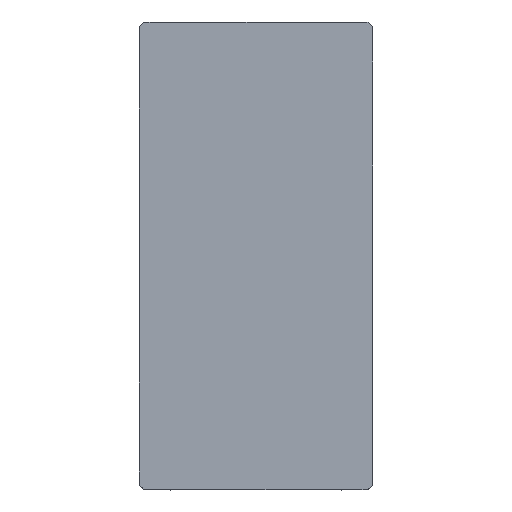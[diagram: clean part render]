
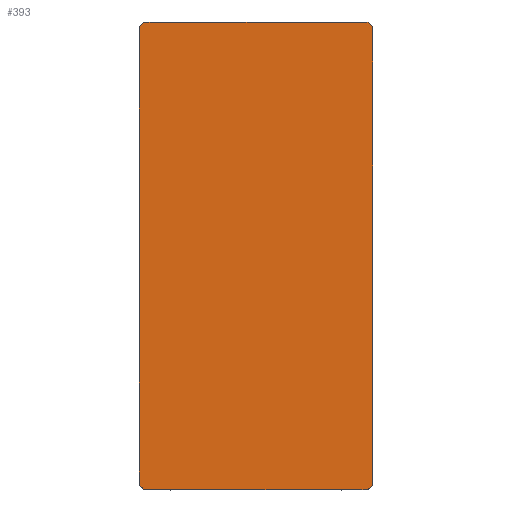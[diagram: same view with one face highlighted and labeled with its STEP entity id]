
A CAD part, top view. The second image highlights one B-rep face of the part: STEP entity #393.
In plain terms, the highlighted planar face has unit normal (0, 0, 1).
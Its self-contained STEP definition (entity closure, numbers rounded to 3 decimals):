
#196=(
BOUNDED_CURVE()
B_SPLINE_CURVE(2,(#4877,#4878,#4879,#4880,#4881,#4882,#4883,#4884,#4885),
.UNSPECIFIED.,.F.,.F.)
B_SPLINE_CURVE_WITH_KNOTS((3,2,2,2,3),(16191.372,17931.372,
17978.496,18818.496,18865.619),.UNSPECIFIED.)
CURVE()
GEOMETRIC_REPRESENTATION_ITEM()
RATIONAL_B_SPLINE_CURVE((1.,1.,1.,0.707,1.,1.,1.,0.707,
1.))
REPRESENTATION_ITEM($)
);
#198=(
BOUNDED_CURVE()
B_SPLINE_CURVE(2,(#4897,#4898,#4899,#4900,#4901,#4902,#4903,#4904,#4905),
.UNSPECIFIED.,.F.,.F.)
B_SPLINE_CURVE_WITH_KNOTS((3,2,2,2,3),(18865.619,20605.619,
20652.743,21492.743,21539.867),.UNSPECIFIED.)
CURVE()
GEOMETRIC_REPRESENTATION_ITEM()
RATIONAL_B_SPLINE_CURVE((1.,1.,1.,0.707,1.,1.,1.,0.707,
1.))
REPRESENTATION_ITEM($)
);
#393=ADVANCED_FACE($,(#617),#2891,.T.);
#617=FACE_OUTER_BOUND($,#847,.T.);
#847=EDGE_LOOP($,(#1288,#1289));
#1288=ORIENTED_EDGE($,*,*,#2171,.T.);
#1289=ORIENTED_EDGE($,*,*,#2174,.T.);
#2171=EDGE_CURVE($,#2629,#2631,#196,.T.);
#2174=EDGE_CURVE($,#2631,#2629,#198,.T.);
#2629=VERTEX_POINT($,#4945);
#2631=VERTEX_POINT($,#4947);
#2891=PLANE($,#3443);
#3443=AXIS2_PLACEMENT_3D($,#4925,#3544,$);
#3544=DIRECTION($,(0.,0.,1.));
#4877=CARTESIAN_POINT($,(900.,30.,734.));
#4878=CARTESIAN_POINT($,(900.,900.,734.));
#4879=CARTESIAN_POINT($,(900.,1770.,734.));
#4880=CARTESIAN_POINT($,(900.,1800.,734.));
#4881=CARTESIAN_POINT($,(870.,1800.,734.));
#4882=CARTESIAN_POINT($,(450.,1800.,734.));
#4883=CARTESIAN_POINT($,(30.,1800.,734.));
#4884=CARTESIAN_POINT($,(0.,1800.,734.));
#4885=CARTESIAN_POINT($,(0.,1770.,734.));
#4897=CARTESIAN_POINT($,(0.,1770.,734.));
#4898=CARTESIAN_POINT($,(0.,900.,734.));
#4899=CARTESIAN_POINT($,(0.,30.,734.));
#4900=CARTESIAN_POINT($,(0.,0.,734.));
#4901=CARTESIAN_POINT($,(30.,0.,734.));
#4902=CARTESIAN_POINT($,(450.,0.,734.));
#4903=CARTESIAN_POINT($,(870.,0.,734.));
#4904=CARTESIAN_POINT($,(900.,0.,734.));
#4905=CARTESIAN_POINT($,(900.,30.,734.));
#4925=CARTESIAN_POINT($,(900.,0.,734.));
#4945=CARTESIAN_POINT($,(900.,30.,734.));
#4947=CARTESIAN_POINT($,(0.,1770.,734.));
